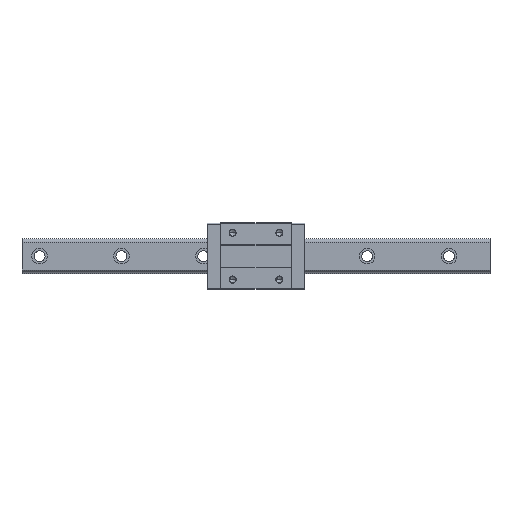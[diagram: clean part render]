
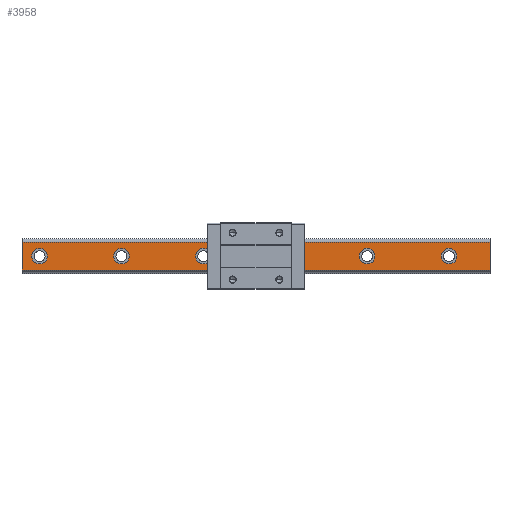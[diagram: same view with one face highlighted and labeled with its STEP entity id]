
A CAD part, top view. The second image highlights one B-rep face of the part: STEP entity #3958.
In plain terms, the highlighted planar face has unit normal (0, 0, 1).
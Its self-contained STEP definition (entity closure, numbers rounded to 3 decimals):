
#53 = CARTESIAN_POINT ( 'NONE',  ( -57.5, 0., 32. ) ) ;
#131 = CARTESIAN_POINT ( 'NONE',  ( 247.5, 0., 32. ) ) ;
#222 = DIRECTION ( 'NONE',  ( 0., 0., 1. ) ) ;
#230 = EDGE_LOOP ( 'NONE', ( #1390, #1994 ) ) ;
#251 = FACE_BOUND ( 'NONE', #2835, .T. ) ;
#253 = CARTESIAN_POINT ( 'NONE',  ( -67.5, 0., 32. ) ) ;
#307 = CARTESIAN_POINT ( 'NONE',  ( 237.5, 0., 32. ) ) ;
#308 = CARTESIAN_POINT ( 'NONE',  ( 300., -17.696, 32. ) ) ;
#374 = CARTESIAN_POINT ( 'NONE',  ( -300., 17.696, 32. ) ) ;
#381 = DIRECTION ( 'NONE',  ( 0., -1., 0. ) ) ;
#406 = VERTEX_POINT ( 'NONE', #817 ) ;
#438 = AXIS2_PLACEMENT_3D ( 'NONE', #3389, #3416, #5133 ) ;
#525 = ORIENTED_EDGE ( 'NONE', *, *, #1471, .F. ) ;
#630 = CARTESIAN_POINT ( 'NONE',  ( 27.5, 0., 32. ) ) ;
#645 = VERTEX_POINT ( 'NONE', #5081 ) ;
#658 = CARTESIAN_POINT ( 'NONE',  ( -67.5, 0., 32. ) ) ;
#683 = EDGE_CURVE ( 'NONE', #2812, #5057, #3658, .T. ) ;
#718 = DIRECTION ( 'NONE',  ( 1., 0., 0. ) ) ;
#739 = AXIS2_PLACEMENT_3D ( 'NONE', #2586, #2961, #4681 ) ;
#793 = CARTESIAN_POINT ( 'NONE',  ( -172.5, 0., 32. ) ) ;
#817 = CARTESIAN_POINT ( 'NONE',  ( -162.5, 0., 32. ) ) ;
#837 = VERTEX_POINT ( 'NONE', #374 ) ;
#866 = LINE ( 'NONE', #3451, #2462 ) ;
#968 = DIRECTION ( 'NONE',  ( 0., -1., 0. ) ) ;
#1008 = AXIS2_PLACEMENT_3D ( 'NONE', #3840, #1256, #3437 ) ;
#1030 = CARTESIAN_POINT ( 'NONE',  ( 47.5, 0., 32. ) ) ;
#1056 = EDGE_LOOP ( 'NONE', ( #3404, #525 ) ) ;
#1067 = LINE ( 'NONE', #1129, #4279 ) ;
#1074 = EDGE_CURVE ( 'NONE', #3467, #5480, #5458, .T. ) ;
#1112 = EDGE_CURVE ( 'NONE', #5480, #3467, #2146, .T. ) ;
#1116 = FACE_BOUND ( 'NONE', #2624, .T. ) ;
#1129 = CARTESIAN_POINT ( 'NONE',  ( 300., 17.696, 32. ) ) ;
#1174 = DIRECTION ( 'NONE',  ( 0., 0., -1. ) ) ;
#1250 = EDGE_CURVE ( 'NONE', #3912, #3388, #4214, .T. ) ;
#1256 = DIRECTION ( 'NONE',  ( 0., 0., 1. ) ) ;
#1281 = VERTEX_POINT ( 'NONE', #3877 ) ;
#1316 = EDGE_CURVE ( 'NONE', #3388, #3912, #4133, .T. ) ;
#1344 = AXIS2_PLACEMENT_3D ( 'NONE', #308, #1174, #2876 ) ;
#1390 = ORIENTED_EDGE ( 'NONE', *, *, #2598, .F. ) ;
#1471 = EDGE_CURVE ( 'NONE', #4170, #406, #3669, .T. ) ;
#1500 = CARTESIAN_POINT ( 'NONE',  ( 37.5, 0., 32. ) ) ;
#1512 = DIRECTION ( 'NONE',  ( 1., 0., 0. ) ) ;
#1561 = DIRECTION ( 'NONE',  ( 1., 0., 0. ) ) ;
#1597 = AXIS2_PLACEMENT_3D ( 'NONE', #793, #3833, #5118 ) ;
#1606 = FACE_BOUND ( 'NONE', #230, .T. ) ;
#1608 = DIRECTION ( 'NONE',  ( 0., 0., 1. ) ) ;
#1721 = ORIENTED_EDGE ( 'NONE', *, *, #2397, .F. ) ;
#1803 = LINE ( 'NONE', #3528, #3000 ) ;
#1867 = ORIENTED_EDGE ( 'NONE', *, *, #3226, .T. ) ;
#1907 = ORIENTED_EDGE ( 'NONE', *, *, #1250, .F. ) ;
#1913 = EDGE_LOOP ( 'NONE', ( #1867, #4711, #4616, #3155 ) ) ;
#1952 = AXIS2_PLACEMENT_3D ( 'NONE', #658, #222, #718 ) ;
#1994 = ORIENTED_EDGE ( 'NONE', *, *, #683, .F. ) ;
#2000 = PLANE ( 'NONE',  #1344 ) ;
#2032 = FACE_BOUND ( 'NONE', #2726, .T. ) ;
#2041 = CARTESIAN_POINT ( 'NONE',  ( 247.5, 0., 32. ) ) ;
#2060 = FACE_BOUND ( 'NONE', #4487, .T. ) ;
#2104 = AXIS2_PLACEMENT_3D ( 'NONE', #1500, #2824, #3222 ) ;
#2138 = LINE ( 'NONE', #4696, #2435 ) ;
#2146 = CIRCLE ( 'NONE', #3395, 10. ) ;
#2199 = AXIS2_PLACEMENT_3D ( 'NONE', #131, #4846, #3107 ) ;
#2259 = VERTEX_POINT ( 'NONE', #1030 ) ;
#2330 = VERTEX_POINT ( 'NONE', #630 ) ;
#2397 = EDGE_CURVE ( 'NONE', #2259, #2330, #4180, .T. ) ;
#2428 = DIRECTION ( 'NONE',  ( 0., 0., 1. ) ) ;
#2431 = DIRECTION ( 'NONE',  ( -1., 0., 0. ) ) ;
#2435 = VECTOR ( 'NONE', #381, 1000. ) ;
#2462 = VECTOR ( 'NONE', #4333, 1000. ) ;
#2555 = EDGE_CURVE ( 'NONE', #1281, #3210, #1803, .T. ) ;
#2586 = CARTESIAN_POINT ( 'NONE',  ( 142.5, 0., 32. ) ) ;
#2598 = EDGE_CURVE ( 'NONE', #5057, #2812, #4446, .T. ) ;
#2624 = EDGE_LOOP ( 'NONE', ( #3125, #1907 ) ) ;
#2690 = DIRECTION ( 'NONE',  ( 1., 0., 0. ) ) ;
#2692 = ORIENTED_EDGE ( 'NONE', *, *, #2859, .F. ) ;
#2726 = EDGE_LOOP ( 'NONE', ( #5089, #5218 ) ) ;
#2812 = VERTEX_POINT ( 'NONE', #307 ) ;
#2824 = DIRECTION ( 'NONE',  ( 0., 0., 1. ) ) ;
#2826 = CARTESIAN_POINT ( 'NONE',  ( -77.5, 0., 32. ) ) ;
#2835 = EDGE_LOOP ( 'NONE', ( #1721, #2692 ) ) ;
#2859 = EDGE_CURVE ( 'NONE', #2330, #2259, #5072, .T. ) ;
#2876 = DIRECTION ( 'NONE',  ( -1., 0., 0. ) ) ;
#2896 = CIRCLE ( 'NONE', #438, 10. ) ;
#2921 = EDGE_CURVE ( 'NONE', #3550, #645, #4097, .T. ) ;
#2961 = DIRECTION ( 'NONE',  ( 0., 0., 1. ) ) ;
#2963 = CARTESIAN_POINT ( 'NONE',  ( -277.5, 0., 32. ) ) ;
#3000 = VECTOR ( 'NONE', #968, 1000. ) ;
#3107 = DIRECTION ( 'NONE',  ( 1., 0., 0. ) ) ;
#3125 = ORIENTED_EDGE ( 'NONE', *, *, #1316, .F. ) ;
#3155 = ORIENTED_EDGE ( 'NONE', *, *, #4832, .T. ) ;
#3189 = AXIS2_PLACEMENT_3D ( 'NONE', #4852, #4001, #2690 ) ;
#3210 = VERTEX_POINT ( 'NONE', #3918 ) ;
#3222 = DIRECTION ( 'NONE',  ( 1., 0., 0. ) ) ;
#3226 = EDGE_CURVE ( 'NONE', #837, #5007, #2138, .T. ) ;
#3304 = FACE_BOUND ( 'NONE', #1056, .T. ) ;
#3331 = DIRECTION ( 'NONE',  ( 1., 0., 0. ) ) ;
#3388 = VERTEX_POINT ( 'NONE', #4054 ) ;
#3389 = CARTESIAN_POINT ( 'NONE',  ( 142.5, 0., 32. ) ) ;
#3395 = AXIS2_PLACEMENT_3D ( 'NONE', #253, #1608, #3331 ) ;
#3404 = ORIENTED_EDGE ( 'NONE', *, *, #5088, .F. ) ;
#3416 = DIRECTION ( 'NONE',  ( 0., 0., 1. ) ) ;
#3437 = DIRECTION ( 'NONE',  ( 1., 0., 0. ) ) ;
#3451 = CARTESIAN_POINT ( 'NONE',  ( 300., -17.696, 32. ) ) ;
#3467 = VERTEX_POINT ( 'NONE', #2826 ) ;
#3499 = CARTESIAN_POINT ( 'NONE',  ( -182.5, 0., 32. ) ) ;
#3528 = CARTESIAN_POINT ( 'NONE',  ( 300., -17.696, 32. ) ) ;
#3550 = VERTEX_POINT ( 'NONE', #4162 ) ;
#3658 = CIRCLE ( 'NONE', #4385, 10. ) ;
#3669 = CIRCLE ( 'NONE', #1597, 10. ) ;
#3696 = FACE_OUTER_BOUND ( 'NONE', #1913, .T. ) ;
#3712 = EDGE_CURVE ( 'NONE', #645, #3550, #2896, .T. ) ;
#3752 = CARTESIAN_POINT ( 'NONE',  ( -287.5, 0., 32. ) ) ;
#3794 = CARTESIAN_POINT ( 'NONE',  ( -300., -17.696, 32. ) ) ;
#3833 = DIRECTION ( 'NONE',  ( 0., 0., 1. ) ) ;
#3840 = CARTESIAN_POINT ( 'NONE',  ( 37.5, 0., 32. ) ) ;
#3877 = CARTESIAN_POINT ( 'NONE',  ( 300., 17.696, 32. ) ) ;
#3912 = VERTEX_POINT ( 'NONE', #3752 ) ;
#3918 = CARTESIAN_POINT ( 'NONE',  ( 300., -17.696, 32. ) ) ;
#3955 = AXIS2_PLACEMENT_3D ( 'NONE', #2963, #4348, #5567 ) ;
#3958 = ADVANCED_FACE ( 'NONE', ( #1116, #3304, #2060, #251, #2032, #1606, #3696 ), #2000, .F. ) ;
#4001 = DIRECTION ( 'NONE',  ( 0., 0., 1. ) ) ;
#4054 = CARTESIAN_POINT ( 'NONE',  ( -267.5, 0., 32. ) ) ;
#4097 = CIRCLE ( 'NONE', #739, 10. ) ;
#4133 = CIRCLE ( 'NONE', #4219, 10. ) ;
#4162 = CARTESIAN_POINT ( 'NONE',  ( 152.5, 0., 32. ) ) ;
#4170 = VERTEX_POINT ( 'NONE', #3499 ) ;
#4180 = CIRCLE ( 'NONE', #2104, 10. ) ;
#4214 = CIRCLE ( 'NONE', #3955, 10. ) ;
#4219 = AXIS2_PLACEMENT_3D ( 'NONE', #4885, #4912, #1512 ) ;
#4279 = VECTOR ( 'NONE', #2431, 1000. ) ;
#4333 = DIRECTION ( 'NONE',  ( -1., 0., 0. ) ) ;
#4348 = DIRECTION ( 'NONE',  ( 0., 0., 1. ) ) ;
#4385 = AXIS2_PLACEMENT_3D ( 'NONE', #2041, #2428, #1561 ) ;
#4446 = CIRCLE ( 'NONE', #2199, 10. ) ;
#4487 = EDGE_LOOP ( 'NONE', ( #4968, #4610 ) ) ;
#4610 = ORIENTED_EDGE ( 'NONE', *, *, #1074, .F. ) ;
#4616 = ORIENTED_EDGE ( 'NONE', *, *, #2555, .F. ) ;
#4681 = DIRECTION ( 'NONE',  ( 1., 0., 0. ) ) ;
#4696 = CARTESIAN_POINT ( 'NONE',  ( -300., -17.696, 32. ) ) ;
#4711 = ORIENTED_EDGE ( 'NONE', *, *, #5077, .F. ) ;
#4832 = EDGE_CURVE ( 'NONE', #1281, #837, #1067, .T. ) ;
#4846 = DIRECTION ( 'NONE',  ( 0., 0., 1. ) ) ;
#4852 = CARTESIAN_POINT ( 'NONE',  ( -172.5, 0., 32. ) ) ;
#4885 = CARTESIAN_POINT ( 'NONE',  ( -277.5, 0., 32. ) ) ;
#4912 = DIRECTION ( 'NONE',  ( 0., 0., 1. ) ) ;
#4968 = ORIENTED_EDGE ( 'NONE', *, *, #1112, .F. ) ;
#5007 = VERTEX_POINT ( 'NONE', #3794 ) ;
#5057 = VERTEX_POINT ( 'NONE', #5166 ) ;
#5072 = CIRCLE ( 'NONE', #1008, 10. ) ;
#5077 = EDGE_CURVE ( 'NONE', #3210, #5007, #866, .T. ) ;
#5081 = CARTESIAN_POINT ( 'NONE',  ( 132.5, 0., 32. ) ) ;
#5088 = EDGE_CURVE ( 'NONE', #406, #4170, #5436, .T. ) ;
#5089 = ORIENTED_EDGE ( 'NONE', *, *, #2921, .F. ) ;
#5118 = DIRECTION ( 'NONE',  ( 1., 0., 0. ) ) ;
#5133 = DIRECTION ( 'NONE',  ( 1., 0., 0. ) ) ;
#5166 = CARTESIAN_POINT ( 'NONE',  ( 257.5, 0., 32. ) ) ;
#5218 = ORIENTED_EDGE ( 'NONE', *, *, #3712, .F. ) ;
#5436 = CIRCLE ( 'NONE', #3189, 10. ) ;
#5458 = CIRCLE ( 'NONE', #1952, 10. ) ;
#5480 = VERTEX_POINT ( 'NONE', #53 ) ;
#5567 = DIRECTION ( 'NONE',  ( 1., 0., 0. ) ) ;
